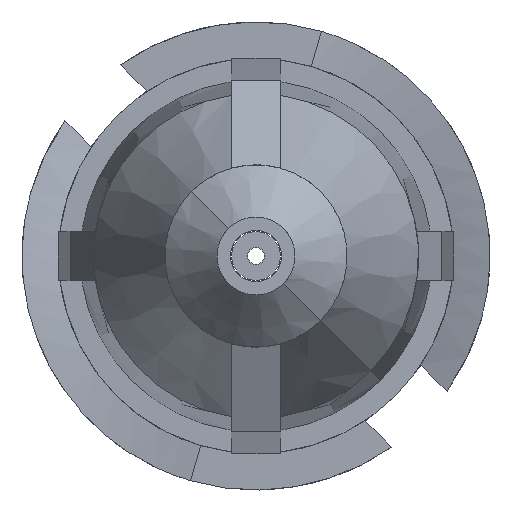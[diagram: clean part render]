
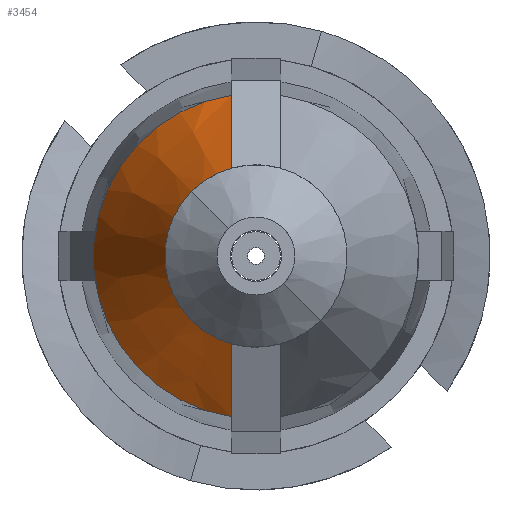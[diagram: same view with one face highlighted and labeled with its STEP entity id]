
A CAD part, left-side view. The second image highlights one B-rep face of the part: STEP entity #3454.
In plain terms, the highlighted conical face has half-angle 23.742 degrees and reference radius 2.674 mm.
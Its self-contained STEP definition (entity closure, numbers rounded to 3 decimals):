
#33 = EDGE_CURVE ( 'NONE', #2654, #3032, #2331, .T. ) ;
#42 = FACE_OUTER_BOUND ( 'NONE', #322, .T. ) ;
#46 = AXIS2_PLACEMENT_3D ( 'NONE', #1479, #2371, #1181 ) ;
#164 = CARTESIAN_POINT ( 'NONE',  ( -10.41, 0.41, 0.395 ) ) ;
#245 = VERTEX_POINT ( 'NONE', #3341 ) ;
#322 = EDGE_LOOP ( 'NONE', ( #2820, #3130, #1467, #629, #940 ) ) ;
#350 = CARTESIAN_POINT ( 'NONE',  ( -13.08, 0.41, 0.395 ) ) ;
#378 = CARTESIAN_POINT ( 'NONE',  ( -13.08, 0.82, -1.047 ) ) ;
#624 = CARTESIAN_POINT ( 'NONE',  ( -10.41, 0.82, 3.038 ) ) ;
#629 = ORIENTED_EDGE ( 'NONE', *, *, #3247, .T. ) ;
#881 = CARTESIAN_POINT ( 'NONE',  ( -10.41, 0.82, -2.247 ) ) ;
#940 = ORIENTED_EDGE ( 'NONE', *, *, #33, .T. ) ;
#1181 = DIRECTION ( 'NONE',  ( 0., -0.707, -0.707 ) ) ;
#1200 = B_SPLINE_CURVE_WITH_KNOTS ( 'NONE', 3,
 ( #624, #1732, #2834, #1460 ),
 .UNSPECIFIED., .F., .F.,
 ( 4, 4 ),
 ( 0., 0.003 ),
 .UNSPECIFIED. ) ;
#1250 = DIRECTION ( 'NONE',  ( 1., 0., 0. ) ) ;
#1263 = DIRECTION ( 'NONE',  ( 0., -0.707, -0.707 ) ) ;
#1278 = DIRECTION ( 'NONE',  ( 1., 0., 0. ) ) ;
#1442 = CARTESIAN_POINT ( 'NONE',  ( -10.41, 0.82, -2.247 ) ) ;
#1460 = CARTESIAN_POINT ( 'NONE',  ( -13.08, 0.82, 1.838 ) ) ;
#1462 = CARTESIAN_POINT ( 'NONE',  ( -12.193, 0.82, -1.453 ) ) ;
#1467 = ORIENTED_EDGE ( 'NONE', *, *, #3434, .T. ) ;
#1479 = CARTESIAN_POINT ( 'NONE',  ( -13.08, 0.41, 0.395 ) ) ;
#1521 = EDGE_CURVE ( 'NONE', #2377, #1964, #2921, .T. ) ;
#1706 = DIRECTION ( 'NONE',  ( 1., 0., 0. ) ) ;
#1732 = CARTESIAN_POINT ( 'NONE',  ( -11.301, 0.82, 2.641 ) ) ;
#1781 = AXIS2_PLACEMENT_3D ( 'NONE', #2284, #1250, #1263 ) ;
#1964 = VERTEX_POINT ( 'NONE', #3095 ) ;
#2143 = CIRCLE ( 'NONE', #3173, 1.5 ) ;
#2284 = CARTESIAN_POINT ( 'NONE',  ( -10.41, 0.41, 0.395 ) ) ;
#2331 = CIRCLE ( 'NONE', #46, 1.5 ) ;
#2371 = DIRECTION ( 'NONE',  ( 1., 0., 0. ) ) ;
#2377 = VERTEX_POINT ( 'NONE', #881 ) ;
#2654 = VERTEX_POINT ( 'NONE', #3126 ) ;
#2800 = B_SPLINE_CURVE_WITH_KNOTS ( 'NONE', 3,
 ( #1442, #3145, #1462, #378 ),
 .UNSPECIFIED., .F., .F.,
 ( 4, 4 ),
 ( 0., 0.003 ),
 .UNSPECIFIED. ) ;
#2820 = ORIENTED_EDGE ( 'NONE', *, *, #3024, .F. ) ;
#2834 = CARTESIAN_POINT ( 'NONE',  ( -12.193, 0.82, 2.244 ) ) ;
#2921 = CIRCLE ( 'NONE', #3485, 2.674 ) ;
#2946 = DIRECTION ( 'NONE',  ( 0., -0.707, -0.707 ) ) ;
#3024 = EDGE_CURVE ( 'NONE', #1964, #3032, #1200, .T. ) ;
#3032 = VERTEX_POINT ( 'NONE', #3401 ) ;
#3064 = CONICAL_SURFACE ( 'NONE', #1781, 2.674, 0.414 ) ;
#3095 = CARTESIAN_POINT ( 'NONE',  ( -10.41, 0.82, 3.038 ) ) ;
#3126 = CARTESIAN_POINT ( 'NONE',  ( -13.08, 1.471, 1.456 ) ) ;
#3130 = ORIENTED_EDGE ( 'NONE', *, *, #1521, .F. ) ;
#3145 = CARTESIAN_POINT ( 'NONE',  ( -11.301, 0.82, -1.851 ) ) ;
#3173 = AXIS2_PLACEMENT_3D ( 'NONE', #350, #1706, #3333 ) ;
#3247 = EDGE_CURVE ( 'NONE', #245, #2654, #2143, .T. ) ;
#3333 = DIRECTION ( 'NONE',  ( 0., -0.707, -0.707 ) ) ;
#3341 = CARTESIAN_POINT ( 'NONE',  ( -13.08, 0.82, -1.047 ) ) ;
#3401 = CARTESIAN_POINT ( 'NONE',  ( -13.08, 0.82, 1.838 ) ) ;
#3434 = EDGE_CURVE ( 'NONE', #2377, #245, #2800, .T. ) ;
#3454 = ADVANCED_FACE ( 'NONE', ( #42 ), #3064, .T. ) ;
#3485 = AXIS2_PLACEMENT_3D ( 'NONE', #164, #1278, #2946 ) ;
